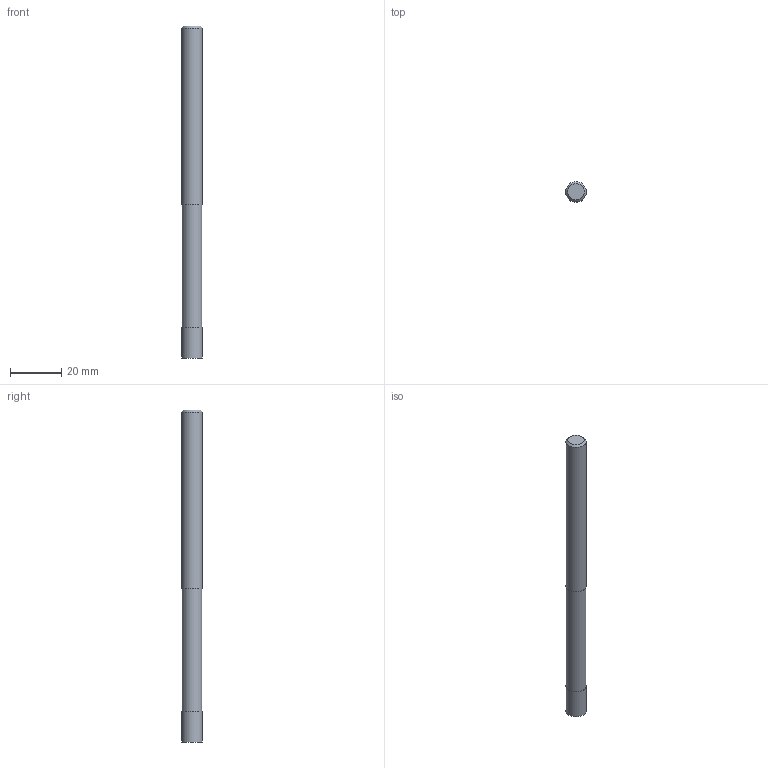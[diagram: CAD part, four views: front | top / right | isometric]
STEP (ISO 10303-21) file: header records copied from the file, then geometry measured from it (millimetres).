
FILE_DESCRIPTION((''),'2;1');
FILE_NAME('C:\Users\nsx150\AppData\Local\Temp\Mastercam 2021\17T8Q8S9EB\TEMP.step','2021-04-21T16:16:44',(''),(''),'STEP Write','Mastercam 2021 ... CNC Software, Inc.','');
FILE_SCHEMA(('AUTOMOTIVE_DESIGN'));
Length unit declared in the file: millimetre
Products named in the file (1): None
Bounding box: 8 x 8 x 130 mm (x, y, z)
Volume: 6407.9 mm3; surface area: 3425.5 mm2
Topology: 2 solids, 2 shells, 9 faces, 11 edges, 7 vertices
Faces by surface type: plane 5, cylinder 3, cone 1
Full cylindrical faces by diameter (mm): 7.8 x1, 8 x2
Entity records: 211 total; most frequent: DIRECTION 36, CARTESIAN_POINT 25, AXIS2_PLACEMENT_3D 18, ORIENTED_EDGE 14, EDGE_LOOP 14, STYLED_ITEM 12, ADVANCED_FACE 9, FACE_BOUND 8
